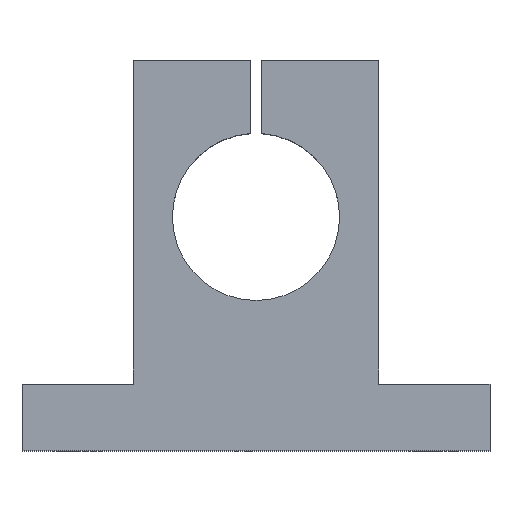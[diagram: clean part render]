
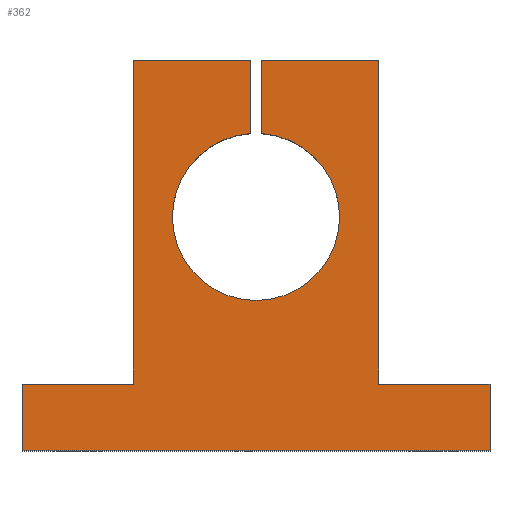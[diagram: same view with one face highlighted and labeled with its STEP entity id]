
A CAD part, top view. The second image highlights one B-rep face of the part: STEP entity #362.
In plain terms, the highlighted planar face has unit normal (0, 0, 1).
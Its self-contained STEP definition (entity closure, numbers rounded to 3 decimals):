
#27=CIRCLE('',#397,15.);
#47=ORIENTED_EDGE('',*,*,#139,.F.);
#48=ORIENTED_EDGE('',*,*,#135,.T.);
#49=ORIENTED_EDGE('',*,*,#140,.T.);
#50=ORIENTED_EDGE('',*,*,#141,.T.);
#51=ORIENTED_EDGE('',*,*,#142,.T.);
#52=ORIENTED_EDGE('',*,*,#143,.T.);
#53=ORIENTED_EDGE('',*,*,#144,.T.);
#54=ORIENTED_EDGE('',*,*,#145,.T.);
#55=ORIENTED_EDGE('',*,*,#146,.T.);
#56=ORIENTED_EDGE('',*,*,#147,.T.);
#57=ORIENTED_EDGE('',*,*,#132,.F.);
#58=ORIENTED_EDGE('',*,*,#148,.F.);
#132=EDGE_CURVE('',#178,#179,#212,.T.);
#135=EDGE_CURVE('',#181,#182,#214,.T.);
#139=EDGE_CURVE('',#181,#185,#218,.T.);
#140=EDGE_CURVE('',#182,#186,#219,.T.);
#141=EDGE_CURVE('',#186,#187,#220,.T.);
#142=EDGE_CURVE('',#187,#188,#221,.T.);
#143=EDGE_CURVE('',#188,#189,#222,.T.);
#144=EDGE_CURVE('',#189,#190,#223,.T.);
#145=EDGE_CURVE('',#190,#191,#224,.T.);
#146=EDGE_CURVE('',#191,#192,#225,.T.);
#147=EDGE_CURVE('',#192,#179,#226,.T.);
#148=EDGE_CURVE('',#185,#178,#27,.T.);
#178=VERTEX_POINT('',#531);
#179=VERTEX_POINT('',#533);
#181=VERTEX_POINT('',#539);
#182=VERTEX_POINT('',#540);
#185=VERTEX_POINT('',#548);
#186=VERTEX_POINT('',#550);
#187=VERTEX_POINT('',#552);
#188=VERTEX_POINT('',#554);
#189=VERTEX_POINT('',#556);
#190=VERTEX_POINT('',#558);
#191=VERTEX_POINT('',#560);
#192=VERTEX_POINT('',#562);
#212=LINE('',#532,#246);
#214=LINE('',#538,#248);
#218=LINE('',#547,#252);
#219=LINE('',#549,#253);
#220=LINE('',#551,#254);
#221=LINE('',#553,#255);
#222=LINE('',#555,#256);
#223=LINE('',#557,#257);
#224=LINE('',#559,#258);
#225=LINE('',#561,#259);
#226=LINE('',#563,#260);
#246=VECTOR('',#431,1000.);
#248=VECTOR('',#437,1000.);
#252=VECTOR('',#443,1000.);
#253=VECTOR('',#444,1000.);
#254=VECTOR('',#445,1000.);
#255=VECTOR('',#446,1000.);
#256=VECTOR('',#447,1000.);
#257=VECTOR('',#448,1000.);
#258=VECTOR('',#449,1000.);
#259=VECTOR('',#450,1000.);
#260=VECTOR('',#451,1000.);
#281=EDGE_LOOP('',(#47,#48,#49,#50,#51,#52,#53,#54,#55,#56,#57,#58));
#315=FACE_BOUND('',#281,.T.);
#348=PLANE('',#396);
#362=ADVANCED_FACE('',(#315),#348,.T.);
#396=AXIS2_PLACEMENT_3D('',#546,#441,#442);
#397=AXIS2_PLACEMENT_3D('',#564,#452,#453);
#431=DIRECTION('',(0.,1.,0.));
#437=DIRECTION('',(-1.,0.,0.));
#441=DIRECTION('',(0.,0.,1.));
#442=DIRECTION('',(1.,0.,0.));
#443=DIRECTION('',(0.,-1.,0.));
#444=DIRECTION('',(0.,-1.,0.));
#445=DIRECTION('',(-1.,0.,0.));
#446=DIRECTION('',(0.,-1.,0.));
#447=DIRECTION('',(1.,0.,0.));
#448=DIRECTION('',(0.,1.,0.));
#449=DIRECTION('',(-1.,0.,0.));
#450=DIRECTION('',(0.,1.,0.));
#451=DIRECTION('',(-1.,0.,0.));
#452=DIRECTION('',(0.,0.,1.));
#453=DIRECTION('',(1.,0.,0.));
#531=CARTESIAN_POINT('',(1.,14.967,14.));
#532=CARTESIAN_POINT('',(1.,28.,14.));
#533=CARTESIAN_POINT('',(1.,28.,14.));
#538=CARTESIAN_POINT('',(22.,28.,14.));
#539=CARTESIAN_POINT('',(-1.,28.,14.));
#540=CARTESIAN_POINT('',(-22.,28.,14.));
#546=CARTESIAN_POINT('',(42.,-30.,14.));
#547=CARTESIAN_POINT('',(-1.,28.,14.));
#548=CARTESIAN_POINT('',(-1.,14.967,14.));
#549=CARTESIAN_POINT('',(-22.,-30.,14.));
#550=CARTESIAN_POINT('',(-22.,-30.,14.));
#551=CARTESIAN_POINT('',(-42.,-30.,14.));
#552=CARTESIAN_POINT('',(-42.,-30.,14.));
#553=CARTESIAN_POINT('',(-42.,-42.,14.));
#554=CARTESIAN_POINT('',(-42.,-42.,14.));
#555=CARTESIAN_POINT('',(-42.,-42.,14.));
#556=CARTESIAN_POINT('',(42.,-42.,14.));
#557=CARTESIAN_POINT('',(42.,-42.,14.));
#558=CARTESIAN_POINT('',(42.,-30.,14.));
#559=CARTESIAN_POINT('',(42.,-30.,14.));
#560=CARTESIAN_POINT('',(22.,-30.,14.));
#561=CARTESIAN_POINT('',(22.,-30.,14.));
#562=CARTESIAN_POINT('',(22.,28.,14.));
#563=CARTESIAN_POINT('',(22.,28.,14.));
#564=CARTESIAN_POINT('',(0.,0.,14.));
